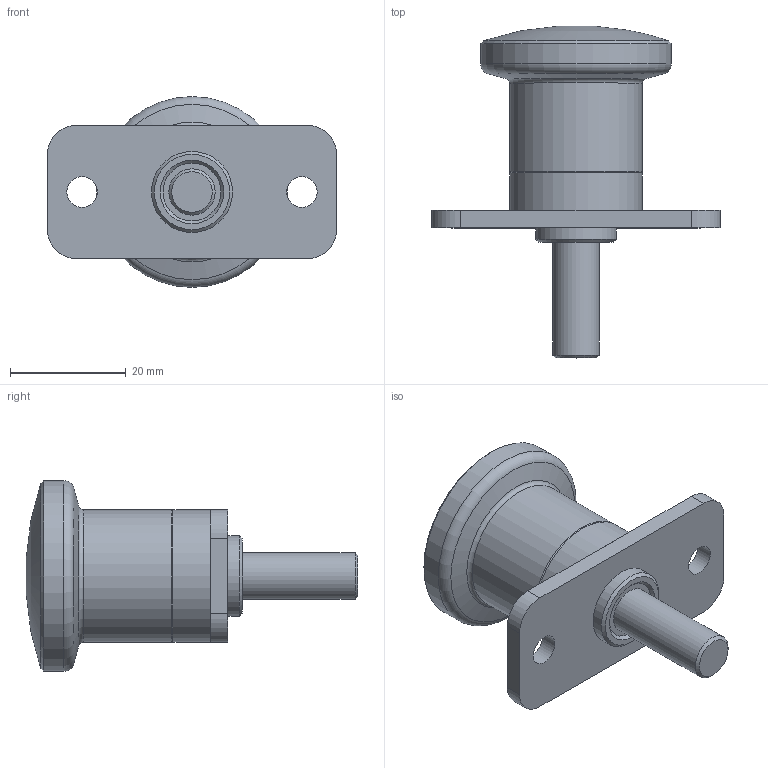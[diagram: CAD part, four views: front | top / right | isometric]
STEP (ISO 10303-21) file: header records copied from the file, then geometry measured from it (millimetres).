
FILE_DESCRIPTION( ( 'STEP AP203' ), '1' );
FILE_NAME( 'C:/Temp/Ganter_Step_05_03_2020/data/3_1/gn822_9/gn822_9_c/Stainless Steel-Mini indexing plunger GN 822.9-8-20-C (deactivated).stp', '2020-03-12T09:25:04', ( 'License CC BY-ND 4.0' ), ( 'CADENAS' ), ' ', 'PARTsolutions', ' ' );
FILE_SCHEMA( ( 'CONFIG_CONTROL_DESIGN' ) );
Length unit declared in the file: millimetre
Products named in the file (3): Stainless Steel-Mini indexing plunger GN 822.9-8-20-C (deactivated); _Stainless Steel-Mini indexing plunger GN 822.9-8-20-C (deactivated)_1; _Stainless Steel-Mini indexing plunger GN 822.9-8-20-C (deactivated)_2
Assembly tree (2 placements, depth 2):
  Stainless Steel-Mini indexing plunger GN 822.9-8-20-C (deactivated)
    _Stainless Steel-Mini indexing plunger GN 822.9-8-20-C (deactivated)_1
    _Stainless Steel-Mini indexing plunger GN 822.9-8-20-C (deactivated)_2
Bounding box: 50 x 57.42 x 33 mm (x, y, z)
Volume: 19539.6 mm3; surface area: 11592.3 mm2
Topology: 2 solids, 2 shells, 81 faces, 190 edges, 120 vertices
Faces by surface type: plane 47, cylinder 16, cone 14, torus 3, sphere 1
Full cylindrical faces by diameter (mm): 5.3 x2, 7.5 x2, 8 x1, 10 x2, 14 x1, 17 x1, 23 x2, 33 x1
Entity records: 2368 total; most frequent: CARTESIAN_POINT 502, DIRECTION 362, ORIENTED_EDGE 326, EDGE_CURVE 163, AXIS2_PLACEMENT_3D 133, EDGE_LOOP 118, VERTEX_POINT 117, FACE_OUTER_BOUND 97
